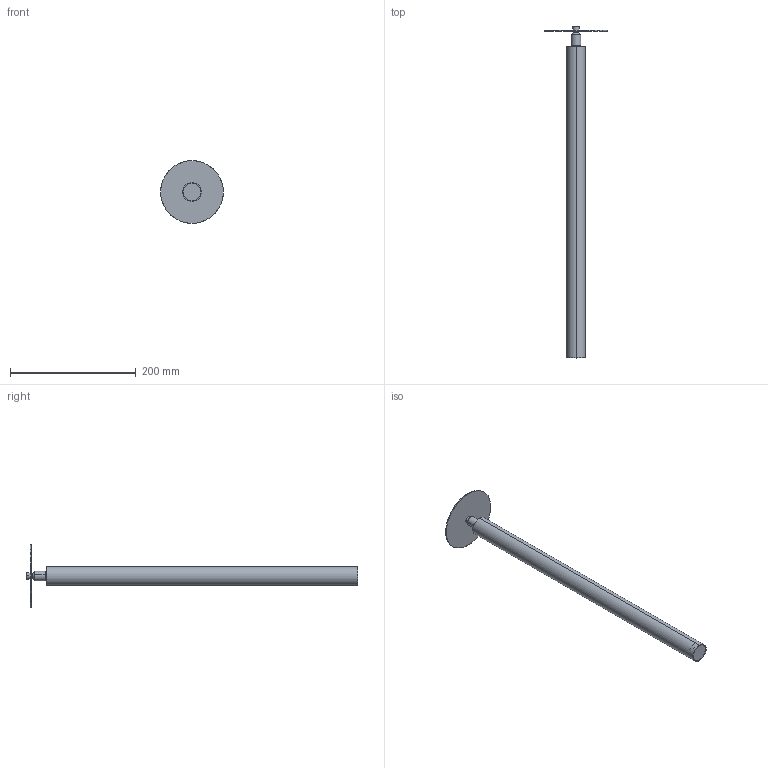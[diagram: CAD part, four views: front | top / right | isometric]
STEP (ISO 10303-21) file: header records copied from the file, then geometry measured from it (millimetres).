
FILE_DESCRIPTION (( 'STEP AP214' ), '1' );
FILE_NAME ('3D_CANNA_NUDA_METALLO50.STEP', '2018-03-16T09:09:11', ( 'Utente' ), ( '' ), 'SwSTEP 2.0', 'SolidWorks 2016', '' );
FILE_SCHEMA (( 'AUTOMOTIVE_DESIGN' ));
Length unit declared in the file: millimetre
Products named in the file (3): 010CNM000700_Diffusore PMMA sp.3mmMARTI-1^3D_CANNA_NUDA_METALLO50; Group1^3D_CANNA_NUDA_METALLO50; 3D_CANNA_NUDA_METALLO50
Assembly tree (2 placements, depth 2):
  3D_CANNA_NUDA_METALLO50
    Group1^3D_CANNA_NUDA_METALLO50
    010CNM000700_Diffusore PMMA sp.3mmMARTI-1^3D_CANNA_NUDA_METALLO50
Bounding box: 99.94 x 527.9 x 99.94 mm (x, y, z)
Volume: 361602.5 mm3; surface area: 67667 mm2
Topology: 2 solids, 2 shells, 36 faces, 68 edges, 42 vertices
Faces by surface type: cone 14, cylinder 12, plane 10
Entity records: 1101 total; most frequent: DIRECTION 192, CARTESIAN_POINT 151, ORIENTED_EDGE 136, AXIS2_PLACEMENT_3D 83, EDGE_CURVE 68, VERTEX_POINT 42, CIRCLE 42, EDGE_LOOP 42
